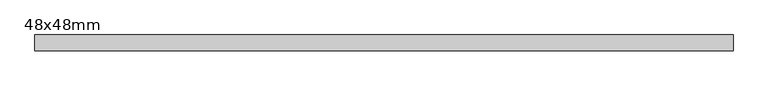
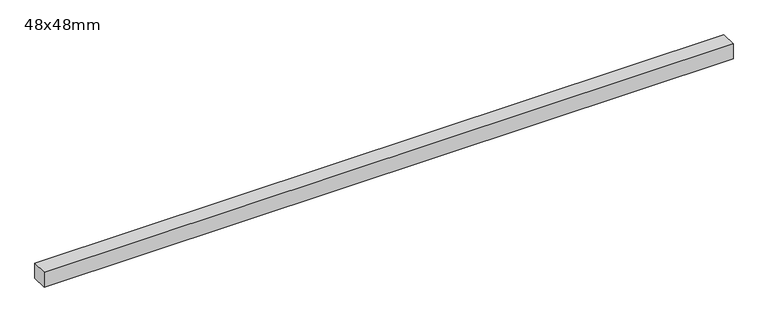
"""IFC4 building model written with IfcOpenShell, lengths in millimetres: proxy geometry, Rectangular - Horisontal - 48mm : 48x48mm."""

import ifcopenshell
import ifcopenshell.guid

model = None  # the IFC model being written
_history = None  # IfcOwnerHistory: only IFC2X3 demands one
_inside = {}  # id of a spatial element -> (the spatial element, [elements in it])
_under = {}  # id of a project, library or spatial element -> (it, [spatial elements below it])
_declared = {}  # id of a project -> (the project, [libraries it declares])
_typed = {}  # id of a type object -> (the type object, [elements of that type])
_made_of = {}  # id of a material, layer set ... -> (it, [elements and type objects made of it])


def new_model(schema):
    """Start an empty IFC model of exactly this schema.

    Asked for "IFC4X3", IfcOpenShell would pick the latest addendum, in which some entities
    have other attributes; the version numbers below select the first issue.
    IFC2X3 requires an IfcOwnerHistory on every rooted entity: one is made here for all.
    """
    global model, _history
    if schema == "IFC4X3":
        model = ifcopenshell.file(schema_version=(4, 3, 0, 0))
    else:
        model = ifcopenshell.file(schema=schema)
    _inside.clear()
    _under.clear()
    _declared.clear()
    _typed.clear()
    _made_of.clear()
    _history = None
    if model.schema == "IFC2X3":
        org = make("IfcOrganization", Name="unknown")
        user = make(
            "IfcPersonAndOrganization",
            ThePerson=make("IfcPerson", FamilyName="unknown"),
            TheOrganization=org,
        )
        app = make(
            "IfcApplication",
            ApplicationDeveloper=org,
            Version="unknown",
            ApplicationFullName="unknown",
            ApplicationIdentifier="unknown",
        )
        _history = make(
            "IfcOwnerHistory",
            OwningUser=user,
            OwningApplication=app,
            ChangeAction="ADDED",
            CreationDate=0,
        )
    return model


def make(cls, **values):
    """One entity of the class cls with the attributes given. An attribute that is None is left unset."""
    return model.create_entity(
        cls, **{name: value for name, value in values.items() if value is not None}
    )


def rooted(cls, **values):
    """An entity with a GlobalId (a new one), such as an element, a storey or a relation."""
    return make(cls, GlobalId=ifcopenshell.guid.new(), OwnerHistory=_history, **values)


def si_unit(unit_type, name, prefix=None):
    """IfcSIUnit, for example si_unit("LENGTHUNIT", "METRE", prefix="MILLI")."""
    return make("IfcSIUnit", UnitType=unit_type, Prefix=prefix, Name=name)


def assignment(units):
    """IfcUnitAssignment: the units of a project."""
    return None if units is None else make("IfcUnitAssignment", Units=units)


def point(xyz):
    """IfcCartesianPoint."""
    return None if xyz is None else make("IfcCartesianPoint", Coordinates=xyz)


def direction(xyz):
    """IfcDirection."""
    return None if xyz is None else make("IfcDirection", DirectionRatios=xyz)


def frame(location, z_axis=None, x_axis=None):
    """IfcAxis2Placement3D, a coordinate frame: its origin and axes. An axis left out is left unset."""
    return make(
        "IfcAxis2Placement3D",
        Location=point(location),
        Axis=direction(z_axis),
        RefDirection=direction(x_axis),
    )


def origin():
    """The frame at (0, 0, 0) with its axes left unset."""
    return frame((0.0, 0.0, 0.0))


def place(relative_to, where):
    """IfcLocalPlacement: puts the frame where relative to a parent placement (None: the world)."""
    return make(
        "IfcLocalPlacement", PlacementRelTo=relative_to, RelativePlacement=where
    )


def context(
    kind, dimensions, precision=None, world=None, true_north=None, identifier=None
):
    """IfcGeometricRepresentationContext, for example the 3D "Model" context."""
    return make(
        "IfcGeometricRepresentationContext",
        ContextIdentifier=identifier,
        ContextType=kind,
        CoordinateSpaceDimension=dimensions,
        Precision=precision,
        WorldCoordinateSystem=world,
        TrueNorth=true_north,
    )


def project(units=None, contexts=None):
    """IfcProject with its units and contexts."""
    return rooted(
        "IfcProject",
        Name="project",
        RepresentationContexts=contexts,
        UnitsInContext=assignment(units),
    )


def spatial(cls, under=None, at=None, **own):
    """A site, building, storey or space (cls), placed at a placement, below another one or the project."""
    s = rooted(cls, ObjectPlacement=at, **own)
    if under is not None:
        _under.setdefault(under.id(), (under, []))[1].append(s)
    return s


def polyline(points):
    """IfcPolyline through the points."""
    return make("IfcPolyline", Points=[point(p) for p in points])


def outline(outer, holes=None, kind="AREA"):
    """IfcArbitraryClosedProfileDef: a profile drawn as a closed curve; with holes, ...WithVoids."""
    if holes is None:
        return make("IfcArbitraryClosedProfileDef", ProfileType=kind, OuterCurve=outer)
    return make(
        "IfcArbitraryProfileDefWithVoids",
        ProfileType=kind,
        OuterCurve=outer,
        InnerCurves=holes,
    )


def extrude(swept, where, along, depth):
    """IfcExtrudedAreaSolid: the profile swept, set in the frame where, extruded along a direction by depth."""
    return make(
        "IfcExtrudedAreaSolid",
        SweptArea=swept,
        Position=where,
        ExtrudedDirection=direction(along),
        Depth=depth,
    )


def shape(context_of_items, identifier, shape_type, items):
    """IfcShapeRepresentation: the items that make up one representation, for example the "Body"."""
    return make(
        "IfcShapeRepresentation",
        ContextOfItems=context_of_items,
        RepresentationIdentifier=identifier,
        RepresentationType=shape_type,
        Items=items,
    )


def source(mapping_origin, context_of_items, identifier, shape_type, items):
    """IfcRepresentationMap: a shape defined once, which mapped items show again and again."""
    return make(
        "IfcRepresentationMap",
        MappingOrigin=mapping_origin,
        MappedRepresentation=shape(context_of_items, identifier, shape_type, items),
    )


def transform(
    local_origin,
    x_axis=None,
    y_axis=None,
    z_axis=None,
    scale=None,
    scale2=None,
    scale3=None,
    uniform=True,
):
    """IfcCartesianTransformationOperator3D, or its non-uniform kind. x_axis, y_axis, z_axis: its Axis1, 2, 3."""
    if uniform:
        return make(
            "IfcCartesianTransformationOperator3D",
            Axis1=direction(x_axis),
            Axis2=direction(y_axis),
            LocalOrigin=point(local_origin),
            Scale=scale,
            Axis3=direction(z_axis),
        )
    return make(
        "IfcCartesianTransformationOperator3DnonUniform",
        Axis1=direction(x_axis),
        Axis2=direction(y_axis),
        LocalOrigin=point(local_origin),
        Scale=scale,
        Axis3=direction(z_axis),
        Scale2=scale2,
        Scale3=scale3,
    )


def mapped(mapping_source, mapping_target):
    """IfcMappedItem: shows the shape of a source again, moved by a transform."""
    return make(
        "IfcMappedItem", MappingSource=mapping_source, MappingTarget=mapping_target
    )


def made_of(thing, what):
    """Note that an element or type object is made of a material, layer set ...; save() writes the relation."""
    if what is not None:
        _made_of.setdefault(what.id(), (what, []))[1].append(thing)
    return thing


def element(
    cls,
    number,
    at=None,
    inside=None,
    cuts=None,
    type_object=None,
    material=None,
    context=None,
    identifier="Body",
    shape_type=None,
    held_by="IfcProductDefinitionShape",
    body=None,
    shapes=None,
    **own,
):
    """One element of the class cls, such as IfcWall. Its Tag is "e" and its number.

    at: its placement. inside: the storey or other place that contains it. cuts: it is an
    opening in that element (IfcRelVoidsElement). A single representation is given by context,
    identifier, shape_type and body (its items); several are given by shapes. held_by: the class
    of the entity that holds the representations. save() writes the other relations.
    """
    e = rooted(cls, Tag="e%d" % number, ObjectPlacement=at, **own)
    if body is not None:
        shapes = [shape(context, identifier, shape_type, body)]
    if shapes is not None:
        e.Representation = make(held_by, Representations=shapes)
    if inside is not None:
        _inside.setdefault(inside.id(), (inside, []))[1].append(e)
    if cuts is not None:
        rooted(
            "IfcRelVoidsElement", RelatingBuildingElement=cuts, RelatedOpeningElement=e
        )
    if type_object is not None:
        _typed.setdefault(type_object.id(), (type_object, []))[1].append(e)
    return made_of(e, material)


def aggregate(whole, parts):
    """IfcRelAggregates: a whole, such as a stair, and the parts it consists of."""
    return rooted("IfcRelAggregates", RelatingObject=whole, RelatedObjects=parts)


def save(model, path):
    """Write the relations noted so far, then the file.

    IfcRelAggregates (storeys below a building ...), IfcRelContainedInSpatialStructure (elements
    in a storey), IfcRelDefinesByType, IfcRelAssociatesMaterial and IfcRelDeclares: one each for
    every whole, place, type object, material and project.
    """
    for whole, parts in _under.values():
        aggregate(whole, parts)
    for where, things in _inside.values():
        rooted(
            "IfcRelContainedInSpatialStructure",
            RelatedElements=things,
            RelatingStructure=where,
        )
    for kind, things in _typed.values():
        rooted("IfcRelDefinesByType", RelatedObjects=things, RelatingType=kind)
    for what, things in _made_of.values():
        rooted("IfcRelAssociatesMaterial", RelatedObjects=things, RelatingMaterial=what)
    for by, libraries in _declared.values():
        rooted("IfcRelDeclares", RelatingContext=by, RelatedDefinitions=libraries)
    model.write(path)


def proxy_48x48mm_d24d87a2(model_context):
    return source(origin(), model_context, "Body", "SweptSolid", [
        extrude(outline(polyline([(-1014.0, -24.0), (-1014.0, 24.0), (1086.0, 24.0), (1086.0, -24.0), (-1014.0, -24.0)])), frame((0.0, 0.0, -0.0025175), z_axis=(0.0, 0.0, 1.0), x_axis=(1.0, 0.0, 0.0)), (0.0, 0.0, 1.0), 48.0),
    ])


if __name__ == "__main__":
    model = new_model("IFC4")
    model_context = context("Model", 3, world=origin())
    ifc_project = project(units=[si_unit("LENGTHUNIT", "METRE", prefix="MILLI")], contexts=[model_context])
    site = spatial("IfcSite", under=ifc_project)
    building = spatial("IfcBuilding", under=site)
    placement = place(None, origin())
    proxy_48x48mm_shape = proxy_48x48mm_d24d87a2(model_context)
    element("IfcBuildingElementProxy", 1, Name="Rectangular - Horisontal - 48mm : 48x48mm", ObjectType="Rectangular - Horisontal - 48mm : 48x48mm", at=placement, inside=building, context=model_context, shape_type="MappedRepresentation", body=[
        mapped(proxy_48x48mm_shape, transform((0.0, 0.0, 0.0), x_axis=(1.0, 0.0, 0.0), y_axis=(0.0, 1.0, 0.0), z_axis=(0.0, 0.0, 1.0))),
    ])
    save(model, "model.ifc")
